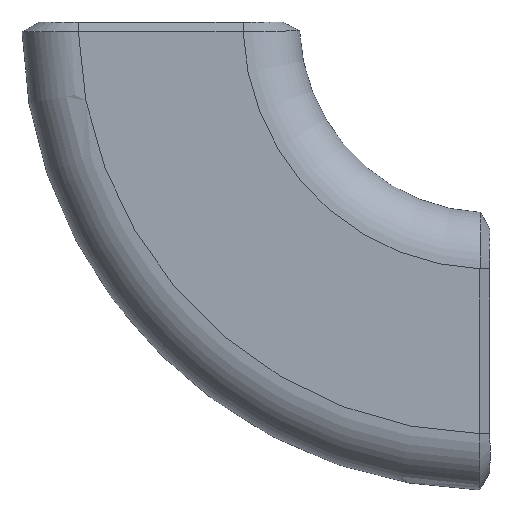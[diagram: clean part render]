
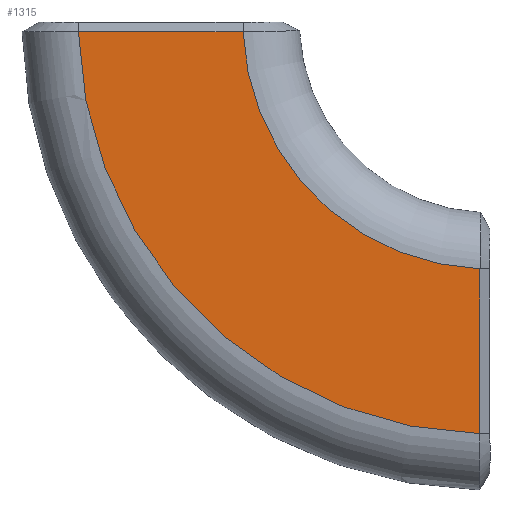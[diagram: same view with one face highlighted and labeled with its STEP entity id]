
A CAD part, left-side view. The second image highlights one B-rep face of the part: STEP entity #1315.
In plain terms, the highlighted planar face has unit normal (-1, 0, 0).
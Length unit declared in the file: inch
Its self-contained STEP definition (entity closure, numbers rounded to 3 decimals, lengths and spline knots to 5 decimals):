
#313=CARTESIAN_POINT('',(-2.0,-4.60566,-5.93575));
#314=VERTEX_POINT('',#313);
#381=CARTESIAN_POINT('',(-2.,-4.60566,-3.55957));
#382=VERTEX_POINT('',#381);
#390=CARTESIAN_POINT('',(-2.,-4.60566,-3.55957));
#391=CARTESIAN_POINT('',(-2.,-4.60566,-3.67249));
#392=CARTESIAN_POINT('',(-2.,-4.60566,-3.89965));
#393=CARTESIAN_POINT('',(-2.0,-4.60566,-4.46435));
#394=CARTESIAN_POINT('',(-2.,-4.60566,-5.03095));
#395=CARTESIAN_POINT('',(-2.0,-4.60566,-5.59563));
#396=CARTESIAN_POINT('',(-2.,-4.60566,-5.82283));
#397=CARTESIAN_POINT('',(-2.,-4.60566,-5.93575));
#398=B_SPLINE_CURVE_WITH_KNOTS('',3,(#390,#391,#392,#393,#394,#395,#396,#397),.UNSPECIFIED.,.F.,.U.,(4,1,1,1,1,4),(-22.42239,-21.5604,-20.69841,-18.11245,-17.25046,-16.38848),.UNSPECIFIED.);
#399=EDGE_CURVE('',#382,#314,#398,.T.);
#619=CARTESIAN_POINT('',(-2.,-1.19018,-0.13818));
#620=VERTEX_POINT('',#619);
#631=CARTESIAN_POINT('',(-2.,-4.75,0.0));
#632=DIRECTION('',(-1.0,0.0,0.0));
#633=DIRECTION('',(0.0,1.0,0.0));
#634=AXIS2_PLACEMENT_3D('',#631,#632,#633);
#635=CIRCLE('',#634,3.5625);
#636=EDGE_CURVE('',#620,#382,#635,.T.);
#919=CARTESIAN_POINT('',(-2.0,1.18589,-0.13818));
#920=VERTEX_POINT('',#919);
#1008=CARTESIAN_POINT('',(-2.,1.18589,-0.13818));
#1009=CARTESIAN_POINT('',(-2.,1.07298,-0.13818));
#1010=CARTESIAN_POINT('',(-2.,0.84585,-0.13818));
#1011=CARTESIAN_POINT('',(-2.,0.28108,-0.13818));
#1012=CARTESIAN_POINT('',(-2.0,-0.2854,-0.13818));
#1013=CARTESIAN_POINT('',(-2.,-0.85018,-0.13818));
#1014=CARTESIAN_POINT('',(-2.,-1.07727,-0.13818));
#1015=CARTESIAN_POINT('',(-2.,-1.19018,-0.13818));
#1016=B_SPLINE_CURVE_WITH_KNOTS('',3,(#1008,#1009,#1010,#1011,#1012,#1013,#1014,#1015),.UNSPECIFIED.,.F.,.U.,(4,1,1,1,1,4),(8.28155,9.1435,10.00545,12.5913,13.45325,14.31521),.UNSPECIFIED.);
#1017=EDGE_CURVE('',#920,#620,#1016,.T.);
#1298=CARTESIAN_POINT('',(-2.,0.,0.0));
#1299=DIRECTION('',(-1.0,0.0,0.0));
#1300=DIRECTION('',(0.0,0.0,1.0));
#1301=AXIS2_PLACEMENT_3D('',#1298,#1299,#1300);
#1302=PLANE('',#1301);
#1303=ORIENTED_EDGE('',*,*,#399,.F.);
#1304=ORIENTED_EDGE('',*,*,#636,.F.);
#1305=ORIENTED_EDGE('',*,*,#1017,.F.);
#1306=CARTESIAN_POINT('',(-2.0,-4.75,0.0));
#1307=DIRECTION('',(-1.0,0.0,0.0));
#1308=DIRECTION('',(0.0,1.0,0.0));
#1309=AXIS2_PLACEMENT_3D('',#1306,#1307,#1308);
#1310=CIRCLE('',#1309,5.9375);
#1311=EDGE_CURVE('',#920,#314,#1310,.T.);
#1312=ORIENTED_EDGE('',*,*,#1311,.T.);
#1313=EDGE_LOOP('',(#1303,#1304,#1305,#1312));
#1314=FACE_OUTER_BOUND('',#1313,.T.);
#1315=ADVANCED_FACE('',(#1314),#1302,.T.);
